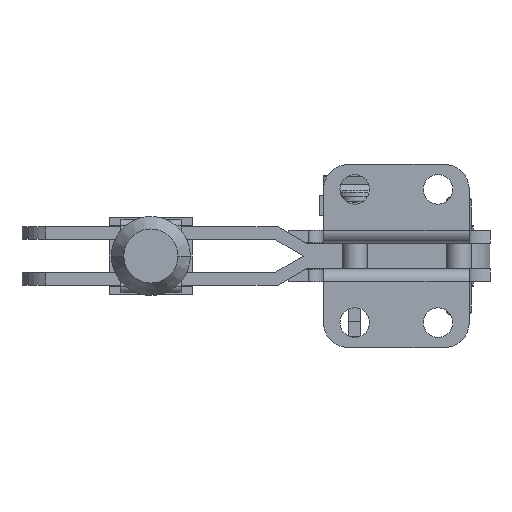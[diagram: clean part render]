
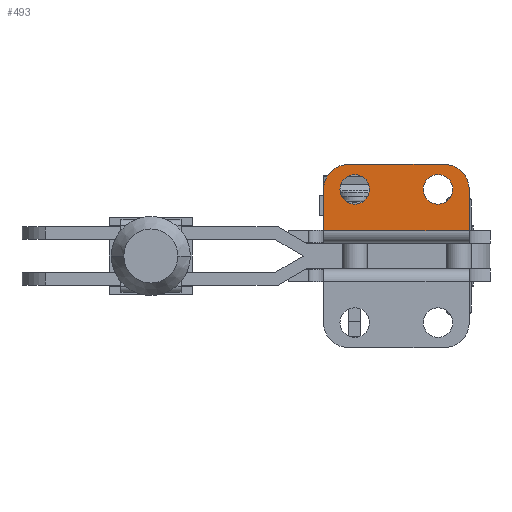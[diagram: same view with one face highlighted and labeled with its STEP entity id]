
A CAD part, front view. The second image highlights one B-rep face of the part: STEP entity #493.
In plain terms, the highlighted planar face has unit normal (0, -1, 0).
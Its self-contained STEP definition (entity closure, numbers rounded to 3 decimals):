
#493 = ADVANCED_FACE( '', ( #885, #886, #887 ), #888, .T. );
#885 = FACE_BOUND( '', #1645, .T. );
#886 = FACE_BOUND( '', #1646, .T. );
#887 = FACE_OUTER_BOUND( '', #1647, .T. );
#888 = PLANE( '', #1648 );
#1645 = EDGE_LOOP( '', ( #2585, #2586 ) );
#1646 = EDGE_LOOP( '', ( #2587, #2588 ) );
#1647 = EDGE_LOOP( '', ( #2589, #2590, #2591, #2592, #2593, #2594 ) );
#1648 = AXIS2_PLACEMENT_3D( '', #2595, #2596, #2597 );
#2585 = ORIENTED_EDGE( '', *, *, #5305, .T. );
#2586 = ORIENTED_EDGE( '', *, *, #5306, .T. );
#2587 = ORIENTED_EDGE( '', *, *, #5301, .T. );
#2588 = ORIENTED_EDGE( '', *, *, #5308, .T. );
#2589 = ORIENTED_EDGE( '', *, *, #5320, .T. );
#2590 = ORIENTED_EDGE( '', *, *, #5345, .F. );
#2591 = ORIENTED_EDGE( '', *, *, #5316, .T. );
#2592 = ORIENTED_EDGE( '', *, *, #5346, .T. );
#2593 = ORIENTED_EDGE( '', *, *, #5347, .F. );
#2594 = ORIENTED_EDGE( '', *, *, #5348, .T. );
#2595 = CARTESIAN_POINT( '', ( 0., 0., -3.1 ) );
#2596 = DIRECTION( '', ( 0., -1., 0. ) );
#2597 = DIRECTION( '', ( -1., 0., 0. ) );
#5301 = EDGE_CURVE( '', #6277, #6281, #6283, .T. );
#5305 = EDGE_CURVE( '', #6285, #6289, #6291, .T. );
#5306 = EDGE_CURVE( '', #6289, #6285, #6292, .T. );
#5308 = EDGE_CURVE( '', #6281, #6277, #6294, .T. );
#5316 = EDGE_CURVE( '', #6305, #6303, #6306, .T. );
#5320 = EDGE_CURVE( '', #6313, #6311, #6314, .T. );
#5345 = EDGE_CURVE( '', #6305, #6311, #6357, .T. );
#5346 = EDGE_CURVE( '', #6303, #6358, #6359, .T. );
#5347 = EDGE_CURVE( '', #6360, #6358, #6361, .T. );
#5348 = EDGE_CURVE( '', #6360, #6313, #6362, .T. );
#6277 = VERTEX_POINT( '', #7810 );
#6281 = VERTEX_POINT( '', #7815 );
#6283 = CIRCLE( '', #7818, 3.55 );
#6285 = VERTEX_POINT( '', #7820 );
#6289 = VERTEX_POINT( '', #7825 );
#6291 = CIRCLE( '', #7828, 3.55 );
#6292 = CIRCLE( '', #7829, 3.55 );
#6294 = CIRCLE( '', #7831, 3.55 );
#6303 = VERTEX_POINT( '', #7840 );
#6305 = VERTEX_POINT( '', #7843 );
#6306 = CIRCLE( '', #7844, 6. );
#6311 = VERTEX_POINT( '', #7850 );
#6313 = VERTEX_POINT( '', #7853 );
#6314 = CIRCLE( '', #7854, 6. );
#6357 = LINE( '', #7915, #7916 );
#6358 = VERTEX_POINT( '', #7917 );
#6359 = LINE( '', #7918, #7919 );
#6360 = VERTEX_POINT( '', #7920 );
#6361 = LINE( '', #7921, #7922 );
#6362 = LINE( '', #7923, #7924 );
#7810 = CARTESIAN_POINT( '', ( 11.05, 0., 16. ) );
#7815 = CARTESIAN_POINT( '', ( 3.95, 0., 16. ) );
#7818 = AXIS2_PLACEMENT_3D( '', #10209, #10210, #10211 );
#7820 = CARTESIAN_POINT( '', ( 31.05, 0., 16. ) );
#7825 = CARTESIAN_POINT( '', ( 23.95, 0., 16. ) );
#7828 = AXIS2_PLACEMENT_3D( '', #10217, #10218, #10219 );
#7829 = AXIS2_PLACEMENT_3D( '', #10220, #10221, #10222 );
#7831 = AXIS2_PLACEMENT_3D( '', #10226, #10227, #10228 );
#7840 = CARTESIAN_POINT( '', ( 0., 0., 16. ) );
#7843 = CARTESIAN_POINT( '', ( 6., 0., 22. ) );
#7844 = AXIS2_PLACEMENT_3D( '', #10248, #10249, #10250 );
#7850 = CARTESIAN_POINT( '', ( 29., 0., 22. ) );
#7853 = CARTESIAN_POINT( '', ( 35., 0., 16. ) );
#7854 = AXIS2_PLACEMENT_3D( '', #10256, #10257, #10258 );
#7915 = CARTESIAN_POINT( '', ( 0., 0., 22. ) );
#7916 = VECTOR( '', #10295, 1. );
#7917 = CARTESIAN_POINT( '', ( 0., 0., 6.1 ) );
#7918 = CARTESIAN_POINT( '', ( 0., 0., -3.1 ) );
#7919 = VECTOR( '', #10296, 1. );
#7920 = CARTESIAN_POINT( '', ( 35., 0., 6.1 ) );
#7921 = CARTESIAN_POINT( '', ( 17.5, 0., 6.1 ) );
#7922 = VECTOR( '', #10297, 1. );
#7923 = CARTESIAN_POINT( '', ( 35., 0., 3.1 ) );
#7924 = VECTOR( '', #10298, 1. );
#10209 = CARTESIAN_POINT( '', ( 7.5, 0., 16. ) );
#10210 = DIRECTION( '', ( 0., 1., 0. ) );
#10211 = DIRECTION( '', ( 1., 0., 0. ) );
#10217 = CARTESIAN_POINT( '', ( 27.5, 0., 16. ) );
#10218 = DIRECTION( '', ( 0., 1., 0. ) );
#10219 = DIRECTION( '', ( 1., 0., 0. ) );
#10220 = CARTESIAN_POINT( '', ( 27.5, 0., 16. ) );
#10221 = DIRECTION( '', ( 0., 1., 0. ) );
#10222 = DIRECTION( '', ( 1., 0., 0. ) );
#10226 = CARTESIAN_POINT( '', ( 7.5, 0., 16. ) );
#10227 = DIRECTION( '', ( 0., 1., 0. ) );
#10228 = DIRECTION( '', ( 1., 0., 0. ) );
#10248 = CARTESIAN_POINT( '', ( 6., 0., 16. ) );
#10249 = DIRECTION( '', ( 0., -1., 0. ) );
#10250 = DIRECTION( '', ( -1., 0., 0. ) );
#10256 = CARTESIAN_POINT( '', ( 29., 0., 16. ) );
#10257 = DIRECTION( '', ( 0., -1., 0. ) );
#10258 = DIRECTION( '', ( 0., 0., 1. ) );
#10295 = DIRECTION( '', ( 1., 0., 0. ) );
#10296 = DIRECTION( '', ( 0., 0., -1. ) );
#10297 = DIRECTION( '', ( -1., 0., 0. ) );
#10298 = DIRECTION( '', ( 0., 0., 1. ) );
